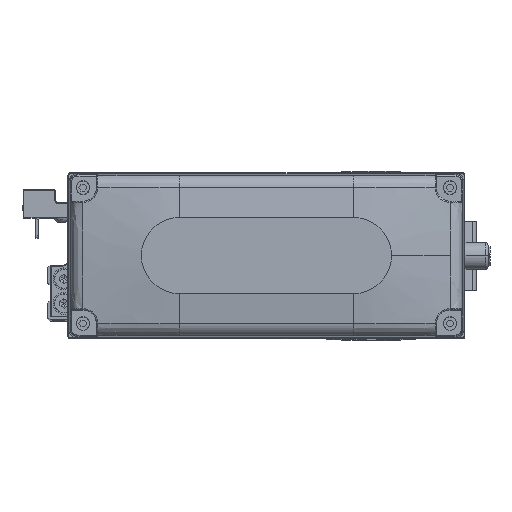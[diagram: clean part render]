
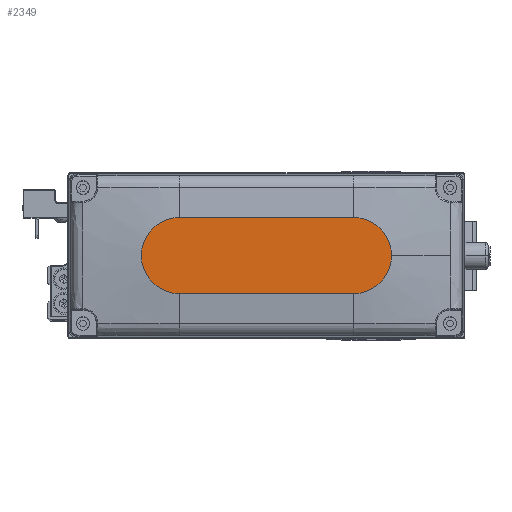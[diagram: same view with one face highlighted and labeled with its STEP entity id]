
A CAD part, top view. The second image highlights one B-rep face of the part: STEP entity #2349.
In plain terms, the highlighted planar face has unit normal (0, 0, 1).
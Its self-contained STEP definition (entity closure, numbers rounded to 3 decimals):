
#2168 = CIRCLE ( 'NONE', #26989, 14. ) ;
#2349 = ADVANCED_FACE ( 'NONE', ( #37866 ), #7451, .T. ) ;
#2561 = DIRECTION ( 'NONE',  ( 1., 0., 0. ) ) ;
#2641 = DIRECTION ( 'NONE',  ( 1., 0., 0. ) ) ;
#3382 = DIRECTION ( 'NONE',  ( 0., 0., 1. ) ) ;
#3674 = VERTEX_POINT ( 'NONE', #34774 ) ;
#3783 = DIRECTION ( 'NONE',  ( -1., 0., 0. ) ) ;
#4131 = DIRECTION ( 'NONE',  ( 1., 0., 0. ) ) ;
#4314 = ORIENTED_EDGE ( 'NONE', *, *, #9969, .T. ) ;
#4741 = EDGE_LOOP ( 'NONE', ( #4314, #18477, #36761, #8108, #39746 ) ) ;
#7451 = PLANE ( 'NONE',  #11318 ) ;
#8108 = ORIENTED_EDGE ( 'NONE', *, *, #36962, .T. ) ;
#9505 = CIRCLE ( 'NONE', #34309, 14. ) ;
#9969 = EDGE_CURVE ( 'NONE', #23701, #10644, #20668, .T. ) ;
#10644 = VERTEX_POINT ( 'NONE', #30319 ) ;
#11318 = AXIS2_PLACEMENT_3D ( 'NONE', #20997, #34532, #4131 ) ;
#11535 = VERTEX_POINT ( 'NONE', #33767 ) ;
#12665 = CIRCLE ( 'NONE', #37481, 14. ) ;
#13201 = DIRECTION ( 'NONE',  ( 1., 0., 0. ) ) ;
#13274 = VERTEX_POINT ( 'NONE', #17446 ) ;
#14217 = VECTOR ( 'NONE', #3783, 1000. ) ;
#16934 = DIRECTION ( 'NONE',  ( 1., 0., 0. ) ) ;
#17446 = CARTESIAN_POINT ( 'NONE',  ( 46., 0., 35. ) ) ;
#18477 = ORIENTED_EDGE ( 'NONE', *, *, #38433, .T. ) ;
#19456 = CARTESIAN_POINT ( 'NONE',  ( -32., 0., 35. ) ) ;
#19526 = LINE ( 'NONE', #33052, #40140 ) ;
#20668 = LINE ( 'NONE', #34197, #14217 ) ;
#20997 = CARTESIAN_POINT ( 'NONE',  ( 0., 0., 35. ) ) ;
#23701 = VERTEX_POINT ( 'NONE', #30375 ) ;
#26989 = AXIS2_PLACEMENT_3D ( 'NONE', #30072, #43592, #13201 ) ;
#27500 = EDGE_CURVE ( 'NONE', #3674, #11535, #19526, .T. ) ;
#30072 = CARTESIAN_POINT ( 'NONE',  ( 32., 0., 35. ) ) ;
#30319 = CARTESIAN_POINT ( 'NONE',  ( -32., 14., 35. ) ) ;
#30375 = CARTESIAN_POINT ( 'NONE',  ( 32., 14., 35. ) ) ;
#31406 = EDGE_CURVE ( 'NONE', #13274, #23701, #2168, .T. ) ;
#32978 = DIRECTION ( 'NONE',  ( 0., 0., 1. ) ) ;
#33052 = CARTESIAN_POINT ( 'NONE',  ( -32., -14., 35. ) ) ;
#33767 = CARTESIAN_POINT ( 'NONE',  ( 32., -14., 35. ) ) ;
#33789 = CARTESIAN_POINT ( 'NONE',  ( 32., 0., 35. ) ) ;
#34197 = CARTESIAN_POINT ( 'NONE',  ( -32., 14., 35. ) ) ;
#34309 = AXIS2_PLACEMENT_3D ( 'NONE', #33789, #3382, #16934 ) ;
#34532 = DIRECTION ( 'NONE',  ( 0., 0., 1. ) ) ;
#34774 = CARTESIAN_POINT ( 'NONE',  ( -32., -14., 35. ) ) ;
#36761 = ORIENTED_EDGE ( 'NONE', *, *, #27500, .T. ) ;
#36962 = EDGE_CURVE ( 'NONE', #11535, #13274, #9505, .T. ) ;
#37481 = AXIS2_PLACEMENT_3D ( 'NONE', #19456, #32978, #2561 ) ;
#37866 = FACE_OUTER_BOUND ( 'NONE', #4741, .T. ) ;
#38433 = EDGE_CURVE ( 'NONE', #10644, #3674, #12665, .T. ) ;
#39746 = ORIENTED_EDGE ( 'NONE', *, *, #31406, .T. ) ;
#40140 = VECTOR ( 'NONE', #2641, 1000. ) ;
#43592 = DIRECTION ( 'NONE',  ( 0., 0., 1. ) ) ;
